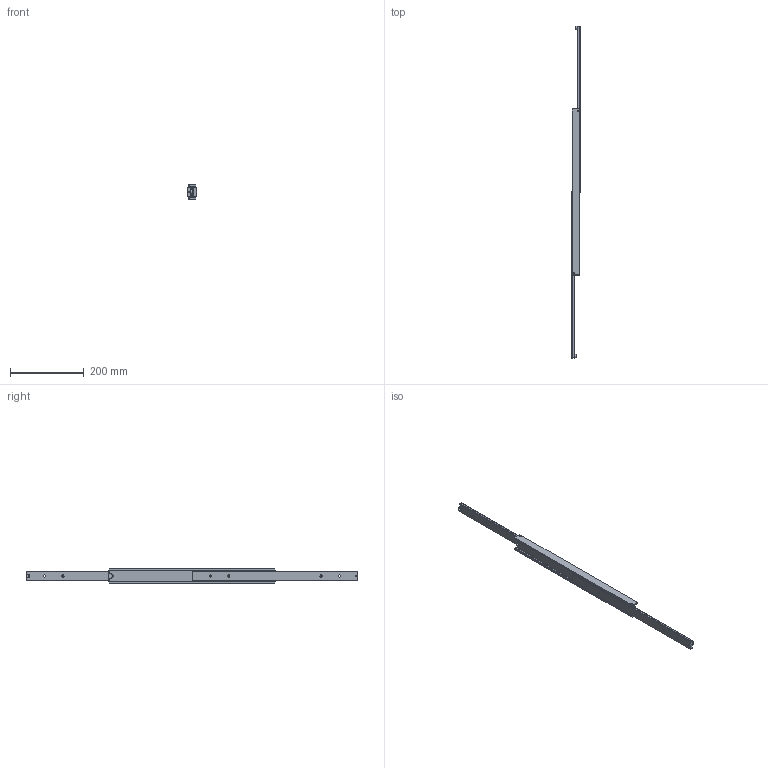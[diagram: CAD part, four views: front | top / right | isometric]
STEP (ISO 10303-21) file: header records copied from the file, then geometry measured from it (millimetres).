
FILE_DESCRIPTION(/* description */ (''),/* implementation_level */ '2;1');
FILE_NAME(/* name */ 'C:\Users\Miluxor\Desktop\Miluxor Schienen\Original Zeichnungen\Zeichnungen Schienen Komplett\MX-DTP40\MX-DTP40.045\MX-DTP40.045 ausgefahren.stp',/* time_stamp */ '2019-01-26T11:59:34+01:00',/* author */ ('Miluxor'),/* organization */ (''),/* preprocessor_version */ 'ST-DEVELOPER v16.13',/* originating_system */ 'AutoCAD Mechanical',/* authorisation */ '');
FILE_SCHEMA (('AUTOMOTIVE_DESIGN { 1 0 10303 214 3 1 1 }'));
Products named in the file (1): Product
Bounding box: 24 x 900 x 40.5 mm (x, y, z)
Volume: 343159 mm3; surface area: 176748.5 mm2
Topology: 65 solids, 65 shells, 474 faces, 1208 edges, 800 vertices
Faces by surface type: plane 292, bspline 68, cylinder 64, sphere 36, cone 8, torus 6
Full cylindrical faces by diameter (mm): 4 x2, 6 x44, 10 x2
Entity records: 51075 total; most frequent: CARTESIAN_POINT 40377, ORIENTED_EDGE 2128, DIRECTION 1892, EDGE_CURVE 1064, VERTEX_POINT 790, LINE 690, VECTOR 690, EDGE_LOOP 632
